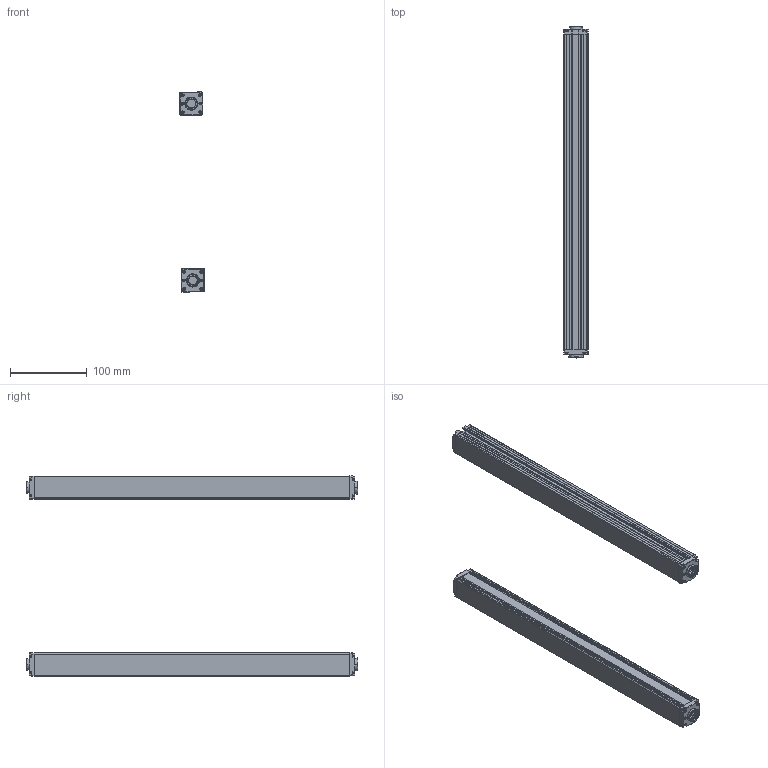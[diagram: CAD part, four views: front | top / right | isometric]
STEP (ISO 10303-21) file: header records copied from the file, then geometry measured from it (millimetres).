
FILE_DESCRIPTION (( 'STEP AP203' ), '1' );
FILE_NAME ('ZDA2020-410.STEP', '2022-08-30T07:30:08', ( 'Windows 蚚誧' ), ( 'Organization' ), 'SwSTEP 2.0', 'SolidWorks 2020', '' );
FILE_SCHEMA (( 'CONFIG_CONTROL_DESIGN' ));
Length unit declared in the file: millimetre
Products named in the file (5): 錨璃1; 錨璃8; 錨璃8 - 萵掛 (2); 錨璃10; ZDA2020-410
Assembly tree (8 placements, depth 2):
  ZDA2020-410
    錨璃1  x2
    錨璃8  x2
    錨璃8 - 萵掛 (2)  x2
    錨璃10  x2
Bounding box: 32.36 x 431.4 x 260.35 mm (x, y, z)
Volume: 267143.2 mm3; surface area: 284559.4 mm2
Topology: 8 solids, 8 shells, 1032 faces, 2690 edges, 1668 vertices
Faces by surface type: plane 464, cylinder 310, cone 120, bspline 58, torus 48, sphere 32
Entity records: 17901 total; most frequent: CARTESIAN_POINT 4731, ORIENTED_EDGE 2666, DIRECTION 2616, EDGE_CURVE 1333, AXIS2_PLACEMENT_3D 894, VERTEX_POINT 834, LINE 828, VECTOR 828
